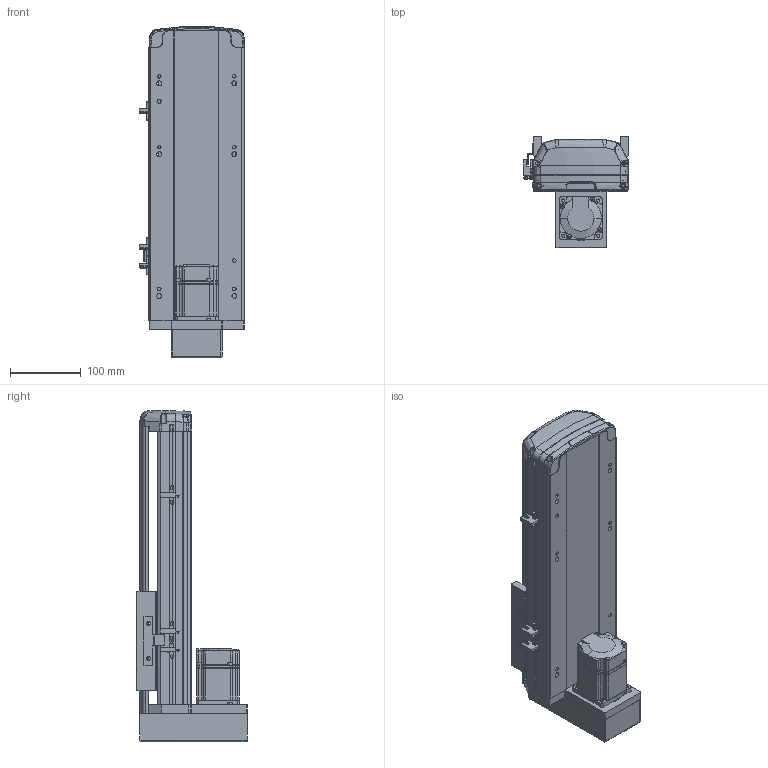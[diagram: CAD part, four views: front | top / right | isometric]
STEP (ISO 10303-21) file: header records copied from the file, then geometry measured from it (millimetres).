
FILE_DESCRIPTION (( 'STEP AP214' ), '1' );
FILE_NAME ('RTH14-XX-200-M-M20-C4.STEP', '2025-10-25T02:46:32', ( 'Microsoft' ), ( 'Microsoft' ), 'SwSTEP 2.0', 'SolidWorks 2018', '' );
FILE_SCHEMA (( 'AUTOMOTIVE_DESIGN' ));
Length unit declared in the file: millimetre
Products named in the file (10): N_RTH13-M-008萇儂啣狟殏^RTH14-XX-XX-M-M20-C4; N_RTH14-GY-001P^RTH14-XX-XX-M-M20-C4; N_RTH14-M-011P菁釱^RTH14-XX-XX-M-M20-C4; N_MSMD022P1AA_200W^RTH14-XX-XX-M-M20-C4; N_RTH14-M-007P奻裔^RTH14-XX-XX-M-M20-C4; N_RTH13-L-012感应片（外置）^RTH14-XX-XX-M-M20-C4; RTH14-XX-200-M-M20-C4; N_OMRON EE-SX672 传感器^RTH14-XX-XX-M-M20-C4; N_RTH13-M-018裔赽^RTH14-XX-XX-M-M20-C4; N_RTH14-R-004-SFSR16賑釱^RTH14-XX-XX-M-M20-C4
Assembly tree (11 placements, depth 2):
  RTH14-XX-200-M-M20-C4
    N_RTH14-M-011P菁釱^RTH14-XX-XX-M-M20-C4
    N_RTH14-M-007P奻裔^RTH14-XX-XX-M-M20-C4
    N_MSMD022P1AA_200W^RTH14-XX-XX-M-M20-C4
    N_RTH13-M-008萇儂啣狟殏^RTH14-XX-XX-M-M20-C4
    N_RTH13-M-018裔赽^RTH14-XX-XX-M-M20-C4
    N_RTH13-L-012感应片（外置）^RTH14-XX-XX-M-M20-C4
    N_OMRON EE-SX672 传感器^RTH14-XX-XX-M-M20-C4  x3
    N_RTH14-R-004-SFSR16賑釱^RTH14-XX-XX-M-M20-C4
    N_RTH14-GY-001P^RTH14-XX-XX-M-M20-C4
Bounding box: 148.5 x 156.5 x 467.49 mm (x, y, z)
Volume: 2416164.6 mm3; surface area: 572273.9 mm2
Topology: 11 solids, 11 shells, 1847 faces, 5156 edges, 3376 vertices
Faces by surface type: plane 991, cylinder 462, bspline 345, cone 45, torus 4
Entity records: 56114 total; most frequent: CARTESIAN_POINT 22771, ORIENTED_EDGE 7380, DIRECTION 5867, EDGE_CURVE 3690, VERTEX_POINT 2412, LINE 2145, VECTOR 2145, AXIS2_PLACEMENT_3D 1861
